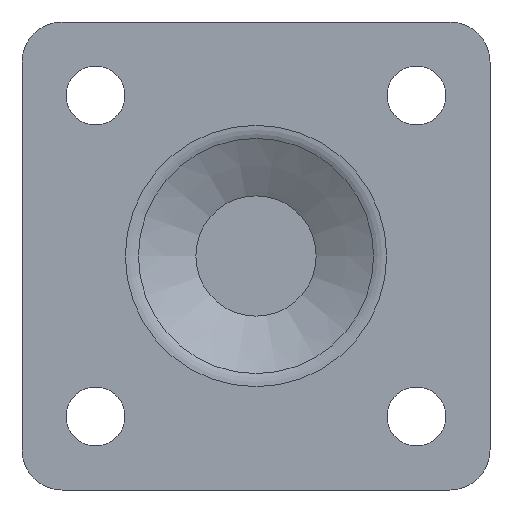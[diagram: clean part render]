
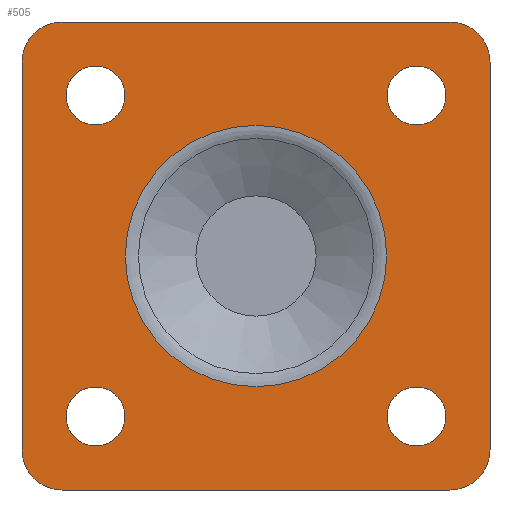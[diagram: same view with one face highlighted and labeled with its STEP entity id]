
A CAD part, front view. The second image highlights one B-rep face of the part: STEP entity #505.
In plain terms, the highlighted planar face has unit normal (0, -1, 0).
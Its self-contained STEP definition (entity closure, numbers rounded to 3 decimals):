
#37=LINE('',#822,#53);
#38=LINE('',#826,#54);
#39=LINE('',#830,#55);
#40=LINE('',#833,#56);
#53=VECTOR('',#669,29.);
#54=VECTOR('',#672,29.);
#55=VECTOR('',#675,29.);
#56=VECTOR('',#678,29.);
#69=PLANE('',#561);
#99=FACE_BOUND('',#175,.T.);
#100=FACE_BOUND('',#176,.T.);
#101=FACE_BOUND('',#177,.T.);
#102=FACE_BOUND('',#178,.T.);
#103=FACE_BOUND('',#179,.T.);
#129=FACE_OUTER_BOUND('',#174,.T.);
#174=EDGE_LOOP('',(#385,#386,#387,#388,#389,#390,#391,#392));
#175=EDGE_LOOP('',(#393));
#176=EDGE_LOOP('',(#394));
#177=EDGE_LOOP('',(#395));
#178=EDGE_LOOP('',(#396));
#179=EDGE_LOOP('',(#397));
#220=CIRCLE('',#539,2.2);
#223=CIRCLE('',#544,2.2);
#226=CIRCLE('',#549,2.2);
#229=CIRCLE('',#554,2.2);
#231=CIRCLE('',#557,9.774);
#234=CIRCLE('',#562,3.);
#235=CIRCLE('',#563,3.);
#236=CIRCLE('',#564,3.);
#237=CIRCLE('',#565,3.);
#258=VERTEX_POINT('',#781);
#261=VERTEX_POINT('',#789);
#264=VERTEX_POINT('',#797);
#267=VERTEX_POINT('',#805);
#269=VERTEX_POINT('',#810);
#272=VERTEX_POINT('',#818);
#273=VERTEX_POINT('',#819);
#274=VERTEX_POINT('',#821);
#275=VERTEX_POINT('',#823);
#276=VERTEX_POINT('',#825);
#277=VERTEX_POINT('',#827);
#278=VERTEX_POINT('',#829);
#279=VERTEX_POINT('',#831);
#306=EDGE_CURVE('',#258,#258,#220,.T.);
#309=EDGE_CURVE('',#261,#261,#223,.T.);
#312=EDGE_CURVE('',#264,#264,#226,.T.);
#315=EDGE_CURVE('',#267,#267,#229,.T.);
#317=EDGE_CURVE('',#269,#269,#231,.T.);
#320=EDGE_CURVE('',#272,#273,#234,.T.);
#321=EDGE_CURVE('',#274,#272,#37,.T.);
#322=EDGE_CURVE('',#275,#274,#235,.T.);
#323=EDGE_CURVE('',#275,#276,#38,.T.);
#324=EDGE_CURVE('',#277,#276,#236,.T.);
#325=EDGE_CURVE('',#278,#277,#39,.T.);
#326=EDGE_CURVE('',#279,#278,#237,.T.);
#327=EDGE_CURVE('',#279,#273,#40,.T.);
#385=ORIENTED_EDGE('',*,*,#320,.F.);
#386=ORIENTED_EDGE('',*,*,#321,.F.);
#387=ORIENTED_EDGE('',*,*,#322,.F.);
#388=ORIENTED_EDGE('',*,*,#323,.T.);
#389=ORIENTED_EDGE('',*,*,#324,.F.);
#390=ORIENTED_EDGE('',*,*,#325,.F.);
#391=ORIENTED_EDGE('',*,*,#326,.F.);
#392=ORIENTED_EDGE('',*,*,#327,.T.);
#393=ORIENTED_EDGE('',*,*,#306,.T.);
#394=ORIENTED_EDGE('',*,*,#309,.T.);
#395=ORIENTED_EDGE('',*,*,#312,.T.);
#396=ORIENTED_EDGE('',*,*,#315,.T.);
#397=ORIENTED_EDGE('',*,*,#317,.F.);
#505=ADVANCED_FACE('',(#129,#99,#100,#101,#102,#103),#69,.T.);
#539=AXIS2_PLACEMENT_3D('',#782,#621,#622);
#544=AXIS2_PLACEMENT_3D('',#790,#631,#632);
#549=AXIS2_PLACEMENT_3D('',#798,#641,#642);
#554=AXIS2_PLACEMENT_3D('',#806,#651,#652);
#557=AXIS2_PLACEMENT_3D('',#811,#657,#658);
#561=AXIS2_PLACEMENT_3D('',#817,#665,#666);
#562=AXIS2_PLACEMENT_3D('',#820,#667,#668);
#563=AXIS2_PLACEMENT_3D('',#824,#670,#671);
#564=AXIS2_PLACEMENT_3D('',#828,#673,#674);
#565=AXIS2_PLACEMENT_3D('',#832,#676,#677);
#621=DIRECTION('center_axis',(0.,1.,0.));
#622=DIRECTION('ref_axis',(1.,0.,0.));
#631=DIRECTION('center_axis',(0.,1.,0.));
#632=DIRECTION('ref_axis',(1.,0.,0.));
#641=DIRECTION('center_axis',(0.,1.,0.));
#642=DIRECTION('ref_axis',(1.,0.,0.));
#651=DIRECTION('center_axis',(0.,1.,0.));
#652=DIRECTION('ref_axis',(1.,0.,0.));
#657=DIRECTION('center_axis',(0.,-1.,0.));
#658=DIRECTION('ref_axis',(-1.,0.,0.));
#665=DIRECTION('center_axis',(0.,-1.,0.));
#666=DIRECTION('ref_axis',(1.,0.,0.));
#667=DIRECTION('center_axis',(0.,1.,0.));
#668=DIRECTION('ref_axis',(-0.707,0.,-0.707));
#669=DIRECTION('',(-1.,0.,0.));
#670=DIRECTION('center_axis',(0.,1.,0.));
#671=DIRECTION('ref_axis',(0.707,0.,-0.707));
#672=DIRECTION('',(0.,0.,1.));
#673=DIRECTION('center_axis',(0.,1.,0.));
#674=DIRECTION('ref_axis',(0.707,0.,0.707));
#675=DIRECTION('',(1.,0.,0.));
#676=DIRECTION('center_axis',(0.,1.,0.));
#677=DIRECTION('ref_axis',(-0.707,0.,0.707));
#678=DIRECTION('',(0.,0.,-1.));
#781=CARTESIAN_POINT('',(3.3,0.,12.));
#782=CARTESIAN_POINT('Origin',(5.5,0.,12.));
#789=CARTESIAN_POINT('',(3.3,0.,-12.));
#790=CARTESIAN_POINT('Origin',(5.5,0.,-12.));
#797=CARTESIAN_POINT('',(27.3,0.,-12.));
#798=CARTESIAN_POINT('Origin',(29.5,0.,-12.));
#805=CARTESIAN_POINT('',(27.3,0.,12.));
#806=CARTESIAN_POINT('Origin',(29.5,0.,12.));
#810=CARTESIAN_POINT('',(27.274,0.,0.));
#811=CARTESIAN_POINT('Origin',(17.5,0.,0.));
#817=CARTESIAN_POINT('Origin',(0.,0.,0.));
#818=CARTESIAN_POINT('',(3.,0.,-17.5));
#819=CARTESIAN_POINT('',(0.,0.,-14.5));
#820=CARTESIAN_POINT('Origin',(3.,0.,-14.5));
#821=CARTESIAN_POINT('',(32.,0.,-17.5));
#822=CARTESIAN_POINT('',(0.,0.,-17.5));
#823=CARTESIAN_POINT('',(35.,0.,-14.5));
#824=CARTESIAN_POINT('Origin',(32.,0.,-14.5));
#825=CARTESIAN_POINT('',(35.,0.,14.5));
#826=CARTESIAN_POINT('',(35.,0.,0.));
#827=CARTESIAN_POINT('',(32.,0.,17.5));
#828=CARTESIAN_POINT('Origin',(32.,0.,14.5));
#829=CARTESIAN_POINT('',(3.,0.,17.5));
#830=CARTESIAN_POINT('',(0.,0.,17.5));
#831=CARTESIAN_POINT('',(0.,0.,14.5));
#832=CARTESIAN_POINT('Origin',(3.,0.,14.5));
#833=CARTESIAN_POINT('',(0.,0.,0.));
